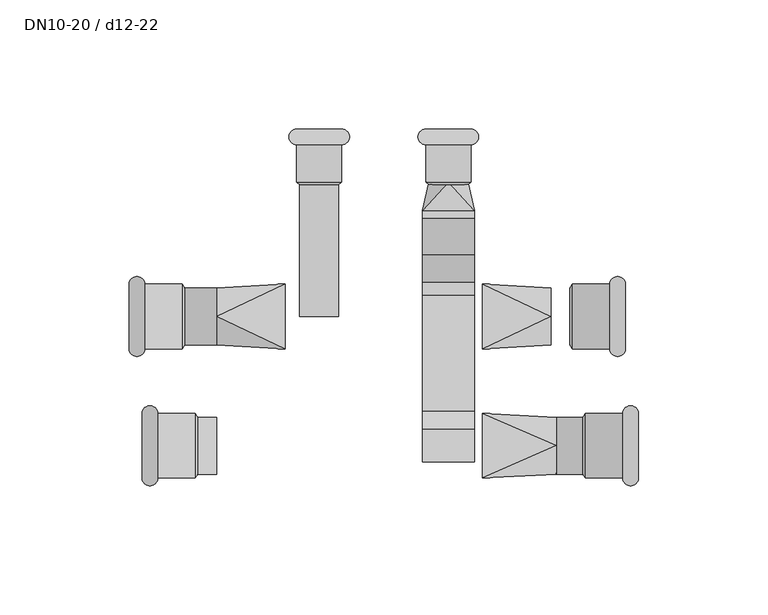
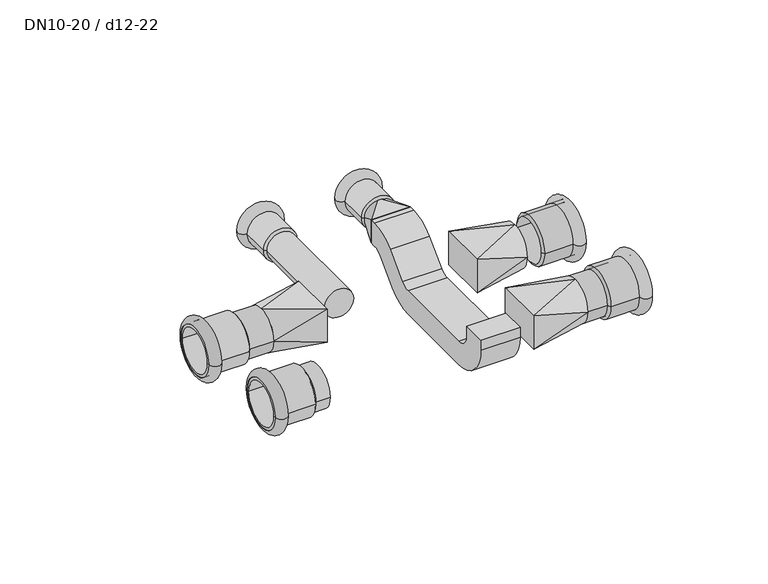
"""IFC4 building model written with IfcOpenShell, lengths in millimetres: pipe fitting geometry, NLRS_50_PIF_UN_Mapress kruising-T-stuk met isolatiebox_geb : DN10-20 / d12-22."""

from ifc_helpers import new_model, si_unit, point, frame, frame_2d, origin, origin_2d, place, context, project, spatial, polyline, circle_curve, ellipse_curve, trimmed, segment, composite_curve, outline, extrude, source, transform, mapped, element, save
from ifc_brep_helpers import plane_surface, cylinder_surface, revolved_surface, spline_surface, advanced_brep


def dn10_20_d12_22_c27e3a43(model_context):
    return source(origin(), model_context, "Body", "SolidModel", [
        advanced_brep(
        [(-41.3, 72.5, 0.0), (-58.7, 72.5, 0.0), (-58.7, 66.4987073, 0.0), (-41.3, 66.4987073, 0.0)],
        [
            (0, 1, circle_curve(frame((-50.0, 72.5, 0.0), z_axis=(0.0, 1.0, 0.0), x_axis=(-1.0000000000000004, 0.0, 0.0)), 8.7)),
            (1, 2),
            (2, 3, circle_curve(frame((-50.0, 66.4987073, 0.0), z_axis=(0.0, -1.0, 0.0), x_axis=(-1.0000000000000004, 0.0, 0.0)), 8.7)),
            (3, 0),
            (1, 0, circle_curve(frame((-50.0, 72.5, 0.0), z_axis=(0.0, 1.0, 0.0), x_axis=(-1.0000000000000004, 0.0, 0.0)), 8.7)),
            (3, 2, circle_curve(frame((-50.0, 66.4987073, 0.0), z_axis=(0.0, -1.0, 0.0), x_axis=(-1.0000000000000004, 0.0, 0.0)), 8.7)),
            (2, 1, circle_curve(frame((-58.7, 69.4993536, 0.0), z_axis=(0.0, 0.0, -1.0000000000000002), x_axis=(0.0, 1.0000000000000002, 0.0)), 3.0006464)),
            (0, 3, circle_curve(frame((-41.3, 69.4993536, 0.0), z_axis=(0.0, 0.0, -1.0000000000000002), x_axis=(0.0, 1.0000000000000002, 0.0)), 3.0006464)),
        ],
        [
            revolved_surface(polyline([(-58.7, 66.4987073, 0.0), (-58.7, 72.5, 0.0)]), (-50.0, 52.0, 0.0), (0.0, -1.0000000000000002, 0.0)),
            revolved_surface(trimmed(ellipse_curve(frame((-58.7, 69.4993536, 0.0), z_axis=(0.0, 0.0, 1.0000000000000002), x_axis=(0.0, 1.0000000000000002, 0.0)), 3.0006464, 3.0006464), [point((-58.7, 72.5, 0.0))], [point((-58.7, 66.4987073, 0.0))], True, "CARTESIAN"), (-50.0, 52.0, 0.0), (0.0, -1.0000000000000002, 0.0)),
        ],
        [
            (0, [[1, 2, 3, 4]]),
            (0, [[5, -4, 6, -2]]),
            (1, [[-3, 7, -1, 8]]),
            (1, [[-6, -8, -5, -7]]),
        ],
    ),
        advanced_brep(
        [(-42.5, 72.5, 0.0), (-57.5, 72.5, 0.0), (-57.5, 51.0, 0.0), (-42.5, 51.0, 0.0), (-41.3, 72.5, 0.0), (-58.7, 72.5, 0.0), (-41.3, 52.0, 0.0), (-58.7, 52.0, 0.0)],
        [
            (0, 1, circle_curve(frame((-50.0, 72.5, 0.0), z_axis=(0.0, 1.0, 0.0), x_axis=(-1.0000000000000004, 0.0, 0.0)), 7.5)),
            (1, 2),
            (2, 3, circle_curve(frame((-50.0, 51.0, 0.0), z_axis=(0.0, -1.0, 0.0), x_axis=(-1.0000000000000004, 0.0, 0.0)), 7.5)),
            (3, 0),
            (1, 0, circle_curve(frame((-50.0, 72.5, 0.0), z_axis=(0.0, 1.0, 0.0), x_axis=(-1.0000000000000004, 0.0, 0.0)), 7.5)),
            (3, 2, circle_curve(frame((-50.0, 51.0, 0.0), z_axis=(0.0, -1.0, 0.0), x_axis=(-1.0000000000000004, 0.0, 0.0)), 7.5)),
            (4, 5, circle_curve(frame((-50.0, 72.5, 0.0), z_axis=(0.0, 1.0, 0.0), x_axis=(-1.0000000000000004, 0.0, 0.0)), 8.7)),
            (5, 1),
            (0, 4),
            (5, 4, circle_curve(frame((-50.0, 72.5, 0.0), z_axis=(0.0, 1.0, 0.0), x_axis=(-1.0000000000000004, 0.0, 0.0)), 8.7)),
            (6, 7, circle_curve(frame((-50.0, 52.0, 0.0), z_axis=(0.0, 1.0, 0.0), x_axis=(-1.0000000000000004, 0.0, 0.0)), 8.7)),
            (7, 5),
            (4, 6),
            (7, 6, circle_curve(frame((-50.0, 52.0, 0.0), z_axis=(0.0, 1.0, 0.0), x_axis=(-1.0000000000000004, 0.0, 0.0)), 8.7)),
            (2, 7),
            (6, 3),
        ],
        [
            revolved_surface(polyline([(-57.5, 51.0, 0.0), (-57.5, 72.5, 0.0)]), (-50.0, 52.0, 0.0), (0.0, -1.0000000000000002, 0.0)),
            plane_surface(frame((-50.0, 72.5, 0.0), z_axis=(0.0, 1.0, 0.0), x_axis=(-1.0, 0.0, 0.0))),
            cylinder_surface(frame((-50.0, 52.0, 0.0), z_axis=(0.0, -1.0000000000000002, 0.0), x_axis=(-1.0000000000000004, 0.0, 0.0)), 8.7),
            revolved_surface(polyline([(-58.7, 52.0, 0.0), (-57.5, 51.0, 0.0)]), (-50.0, 52.0, 0.0), (0.0, -1.0000000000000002, 0.0)),
        ],
        [
            (0, [[1, 2, 3, 4]]),
            (0, [[5, -4, 6, -2]]),
            (1, [[7, 8, -1, 9]]),
            (1, [[10, -9, -5, -8]]),
            (2, [[11, 12, -7, 13]]),
            (2, [[14, -13, -10, -12]]),
            (3, [[-3, 15, -11, 16]]),
            (3, [[-6, -16, -14, -15]]),
        ],
    ),
        advanced_brep(
        [(8.7, 72.5, 0.0), (-8.7, 72.5, 0.0), (-8.7, 66.4987073, 0.0), (8.7, 66.4987073, 0.0)],
        [
            (0, 1, circle_curve(frame((0.0, 72.5, 0.0), z_axis=(0.0, 1.0, 0.0), x_axis=(-1.0000000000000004, 0.0, 0.0)), 8.7)),
            (1, 2),
            (2, 3, circle_curve(frame((0.0, 66.4987073, 0.0), z_axis=(0.0, -1.0, 0.0), x_axis=(-1.0000000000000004, 0.0, 0.0)), 8.7)),
            (3, 0),
            (1, 0, circle_curve(frame((0.0, 72.5, 0.0), z_axis=(0.0, 1.0, 0.0), x_axis=(-1.0000000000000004, 0.0, 0.0)), 8.7)),
            (3, 2, circle_curve(frame((0.0, 66.4987073, 0.0), z_axis=(0.0, -1.0, 0.0), x_axis=(-1.0000000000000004, 0.0, 0.0)), 8.7)),
            (2, 1, circle_curve(frame((-8.7, 69.4993536, 0.0), z_axis=(0.0, 0.0, -1.0000000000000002), x_axis=(0.0, 1.0000000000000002, 0.0)), 3.0006464)),
            (0, 3, circle_curve(frame((8.7, 69.4993536, 0.0), z_axis=(0.0, 0.0, -1.0000000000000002), x_axis=(0.0, 1.0000000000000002, 0.0)), 3.0006464)),
        ],
        [
            revolved_surface(polyline([(-8.700000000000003, 66.4987073, 0.0), (-8.700000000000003, 72.5, 0.0)]), (0.0, 52.0, 0.0), (0.0, -1.0000000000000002, 0.0)),
            revolved_surface(trimmed(ellipse_curve(frame((-8.7, 69.4993536, 0.0), z_axis=(0.0, 0.0, 1.0000000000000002), x_axis=(0.0, 1.0000000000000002, 0.0)), 3.0006464, 3.0006464), [point((-8.7, 72.5, 0.0))], [point((-8.7, 66.4987073, 0.0))], True, "CARTESIAN"), (0.0, 52.0, 0.0), (0.0, -1.0000000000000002, 0.0)),
        ],
        [
            (0, [[1, 2, 3, 4]]),
            (0, [[5, -4, 6, -2]]),
            (1, [[-3, 7, -1, 8]]),
            (1, [[-6, -8, -5, -7]]),
        ],
    ),
        advanced_brep(
        [(7.5, 72.5, 0.0), (-7.5, 72.5, 0.0), (-7.5, 51.0, 0.0), (7.5, 51.0, 0.0), (8.7, 72.5, 0.0), (-8.7, 72.5, 0.0), (8.7, 52.0, 0.0), (-8.7, 52.0, 0.0)],
        [
            (0, 1, circle_curve(frame((0.0, 72.5, 0.0), z_axis=(0.0, 1.0, 0.0), x_axis=(-1.0000000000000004, 0.0, 0.0)), 7.5)),
            (1, 2),
            (2, 3, circle_curve(frame((0.0, 51.0, 0.0), z_axis=(0.0, -1.0, 0.0), x_axis=(-1.0000000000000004, 0.0, 0.0)), 7.5)),
            (3, 0),
            (1, 0, circle_curve(frame((0.0, 72.5, 0.0), z_axis=(0.0, 1.0, 0.0), x_axis=(-1.0000000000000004, 0.0, 0.0)), 7.5)),
            (3, 2, circle_curve(frame((0.0, 51.0, 0.0), z_axis=(0.0, -1.0, 0.0), x_axis=(-1.0000000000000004, 0.0, 0.0)), 7.5)),
            (4, 5, circle_curve(frame((0.0, 72.5, 0.0), z_axis=(0.0, 1.0, 0.0), x_axis=(-1.0000000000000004, 0.0, 0.0)), 8.7)),
            (5, 1),
            (0, 4),
            (5, 4, circle_curve(frame((0.0, 72.5, 0.0), z_axis=(0.0, 1.0, 0.0), x_axis=(-1.0000000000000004, 0.0, 0.0)), 8.7)),
            (6, 7, circle_curve(frame((0.0, 52.0, 0.0), z_axis=(0.0, 1.0, 0.0), x_axis=(-1.0000000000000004, 0.0, 0.0)), 8.7)),
            (7, 5),
            (4, 6),
            (7, 6, circle_curve(frame((0.0, 52.0, 0.0), z_axis=(0.0, 1.0, 0.0), x_axis=(-1.0000000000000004, 0.0, 0.0)), 8.7)),
            (2, 7),
            (6, 3),
        ],
        [
            revolved_surface(polyline([(-7.5000000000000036, 51.0, 0.0), (-7.5000000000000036, 72.5, 0.0)]), (0.0, 52.0, 0.0), (0.0, -1.0000000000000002, 0.0)),
            plane_surface(frame((0.0, 72.5, 0.0), z_axis=(0.0, 1.0, 0.0), x_axis=(-1.0, 0.0, 0.0))),
            cylinder_surface(frame((0.0, 52.0, 0.0), z_axis=(0.0, -1.0000000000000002, 0.0), x_axis=(-1.0000000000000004, 0.0, 0.0)), 8.7),
            revolved_surface(polyline([(-8.7, 52.0, 0.0), (-7.5, 51.0, 0.0)]), (0.0, 52.0, 0.0), (0.0, -1.0000000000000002, 0.0)),
        ],
        [
            (0, [[1, 2, 3, 4]]),
            (0, [[5, -4, 6, -2]]),
            (1, [[7, 8, -1, 9]]),
            (1, [[10, -9, -5, -8]]),
            (2, [[11, 12, -7, 13]]),
            (2, [[14, -13, -10, -12]]),
            (3, [[-3, 15, -11, 16]]),
            (3, [[-6, -16, -14, -15]]),
        ],
    ),
        advanced_brep(
        [(68.5, -12.5, 0.0), (68.5, 12.5, 0.0), (62.4987073, 12.5, 0.0), (62.4987073, -12.5, 0.0)],
        [
            (0, 1, circle_curve(frame((68.5, 0.0, 0.0), z_axis=(1.0, 0.0, 0.0), x_axis=(0.0, 1.0, 0.0)), 12.5)),
            (1, 2),
            (2, 3, circle_curve(frame((62.4987073, 0.0, 0.0), z_axis=(-1.0, 0.0, 0.0), x_axis=(0.0, 1.0, 0.0)), 12.5)),
            (3, 0),
            (1, 0, circle_curve(frame((68.5, 0.0, 0.0), z_axis=(1.0, 0.0, 0.0), x_axis=(0.0, 1.0, 0.0)), 12.5)),
            (3, 2, circle_curve(frame((62.4987073, 0.0, 0.0), z_axis=(-1.0, 0.0, 0.0), x_axis=(0.0, 1.0, 0.0)), 12.5)),
            (2, 1, circle_curve(frame((65.4993536, 12.5, 0.0), z_axis=(0.0, 0.0, -1.0), x_axis=(1.0, 0.0, 0.0)), 3.0006464)),
            (0, 3, circle_curve(frame((65.4993536, -12.5, 0.0), z_axis=(0.0, 0.0, -1.0), x_axis=(1.0, 0.0, 0.0)), 3.0006464)),
        ],
        [
            revolved_surface(polyline([(62.4987073, 12.5, 0.0), (68.5, 12.5, 0.0)]), (48.0, 0.0, 0.0), (-1.0, 0.0, 0.0)),
            revolved_surface(trimmed(ellipse_curve(frame((65.4993536, 12.5, 0.0), z_axis=(0.0, 0.0, 1.0), x_axis=(1.0, 0.0, 0.0)), 3.0006464, 3.0006464), [point((68.5, 12.5, 0.0))], [point((62.4987073, 12.5, 0.0))], True, "CARTESIAN"), (48.0, 0.0, 0.0), (-1.0, 0.0, 0.0)),
        ],
        [
            (0, [[1, 2, 3, 4]]),
            (0, [[5, -4, 6, -2]]),
            (1, [[-3, 7, -1, 8]]),
            (1, [[-6, -8, -5, -7]]),
        ],
    ),
        advanced_brep(
        [(68.5, -11.0, 0.0), (68.5, 11.0, 0.0), (47.0, 11.0, 0.0), (47.0, -11.0, 0.0), (68.5, -12.5, 0.0), (68.5, 12.5, 0.0), (48.0, -12.5, 0.0), (48.0, 12.5, 0.0)],
        [
            (0, 1, circle_curve(frame((68.5, 0.0, 0.0), z_axis=(1.0, 0.0, 0.0), x_axis=(0.0, 1.0, 0.0)), 11.0)),
            (1, 2),
            (2, 3, circle_curve(frame((47.0, 0.0, 0.0), z_axis=(-1.0, 0.0, 0.0), x_axis=(0.0, 1.0, 0.0)), 11.0)),
            (3, 0),
            (1, 0, circle_curve(frame((68.5, 0.0, 0.0), z_axis=(1.0, 0.0, 0.0), x_axis=(0.0, 1.0, 0.0)), 11.0)),
            (3, 2, circle_curve(frame((47.0, 0.0, 0.0), z_axis=(-1.0, 0.0, 0.0), x_axis=(0.0, 1.0, 0.0)), 11.0)),
            (4, 5, circle_curve(frame((68.5, 0.0, 0.0), z_axis=(1.0, 0.0, 0.0), x_axis=(0.0, 1.0, 0.0)), 12.5)),
            (5, 1),
            (0, 4),
            (5, 4, circle_curve(frame((68.5, 0.0, 0.0), z_axis=(1.0, 0.0, 0.0), x_axis=(0.0, 1.0, 0.0)), 12.5)),
            (6, 7, circle_curve(frame((48.0, 0.0, 0.0), z_axis=(1.0, 0.0, 0.0), x_axis=(0.0, 1.0, 0.0)), 12.5)),
            (7, 5),
            (4, 6),
            (7, 6, circle_curve(frame((48.0, 0.0, 0.0), z_axis=(1.0, 0.0, 0.0), x_axis=(0.0, 1.0, 0.0)), 12.5)),
            (2, 7),
            (6, 3),
        ],
        [
            revolved_surface(polyline([(47.0, 11.0, 0.0), (68.5, 11.0, 0.0)]), (48.0, 0.0, 0.0), (-1.0, 0.0, 0.0)),
            plane_surface(frame((68.5, 0.0, 0.0), z_axis=(1.0, 0.0, 0.0), x_axis=(0.0, 1.0, 0.0))),
            cylinder_surface(frame((48.0, 0.0, 0.0), z_axis=(-1.0, 0.0, 0.0), x_axis=(0.0, 1.0, 0.0)), 12.5),
            revolved_surface(polyline([(48.0, 12.5, 0.0), (47.0, 11.0, 0.0)]), (48.0, 0.0, 0.0), (-1.0, 0.0, 0.0)),
        ],
        [
            (0, [[1, 2, 3, 4]]),
            (0, [[5, -4, 6, -2]]),
            (1, [[7, 8, -1, 9]]),
            (1, [[10, -9, -5, -8]]),
            (2, [[11, 12, -7, 13]]),
            (2, [[14, -13, -10, -12]]),
            (3, [[-3, 15, -11, 16]]),
            (3, [[-6, -16, -14, -15]]),
        ],
    ),
        advanced_brep(
        [(73.5, -62.5, 0.0), (73.5, -37.5, 0.0), (67.4987073, -37.5, 0.0), (67.4987073, -62.5, 0.0)],
        [
            (0, 1, circle_curve(frame((73.5, -50.0, 0.0), z_axis=(1.0, 0.0, 0.0), x_axis=(0.0, 1.0, 0.0)), 12.5)),
            (1, 2),
            (2, 3, circle_curve(frame((67.4987073, -50.0, 0.0), z_axis=(-1.0, 0.0, 0.0), x_axis=(0.0, 1.0, 0.0)), 12.5)),
            (3, 0),
            (1, 0, circle_curve(frame((73.5, -50.0, 0.0), z_axis=(1.0, 0.0, 0.0), x_axis=(0.0, 1.0, 0.0)), 12.5)),
            (3, 2, circle_curve(frame((67.4987073, -50.0, 0.0), z_axis=(-1.0, 0.0, 0.0), x_axis=(0.0, 1.0, 0.0)), 12.5)),
            (2, 1, circle_curve(frame((70.4993536, -37.5, 0.0), z_axis=(0.0, 0.0, -1.0), x_axis=(1.0, 0.0, 0.0)), 3.0006464)),
            (0, 3, circle_curve(frame((70.4993536, -62.5, 0.0), z_axis=(0.0, 0.0, -1.0), x_axis=(1.0, 0.0, 0.0)), 3.0006464)),
        ],
        [
            revolved_surface(polyline([(67.4987073, -37.5, 0.0), (73.5, -37.5, 0.0)]), (53.0, -50.0, 0.0), (-1.0, 0.0, 0.0)),
            revolved_surface(trimmed(ellipse_curve(frame((70.4993536, -37.5, 0.0), z_axis=(0.0, 0.0, 1.0), x_axis=(1.0, 0.0, 0.0)), 3.0006464, 3.0006464), [point((73.5, -37.5, 0.0))], [point((67.4987073, -37.5, 0.0))], True, "CARTESIAN"), (53.0, -50.0, 0.0), (-1.0, 0.0, 0.0)),
        ],
        [
            (0, [[1, 2, 3, 4]]),
            (0, [[5, -4, 6, -2]]),
            (1, [[-3, 7, -1, 8]]),
            (1, [[-6, -8, -5, -7]]),
        ],
    ),
        advanced_brep(
        [(73.5, -61.0, 0.0), (73.5, -39.0, 0.0), (52.0, -39.0, 0.0), (52.0, -61.0, 0.0), (73.5, -62.5, 0.0), (73.5, -37.5, 0.0), (53.0, -62.5, 0.0), (53.0, -37.5, 0.0)],
        [
            (0, 1, circle_curve(frame((73.5, -50.0, 0.0), z_axis=(1.0, 0.0, 0.0), x_axis=(0.0, 1.0, 0.0)), 11.0)),
            (1, 2),
            (2, 3, circle_curve(frame((52.0, -50.0, 0.0), z_axis=(-1.0, 0.0, 0.0), x_axis=(0.0, 1.0, 0.0)), 11.0)),
            (3, 0),
            (1, 0, circle_curve(frame((73.5, -50.0, 0.0), z_axis=(1.0, 0.0, 0.0), x_axis=(0.0, 1.0, 0.0)), 11.0)),
            (3, 2, circle_curve(frame((52.0, -50.0, 0.0), z_axis=(-1.0, 0.0, 0.0), x_axis=(0.0, 1.0, 0.0)), 11.0)),
            (4, 5, circle_curve(frame((73.5, -50.0, 0.0), z_axis=(1.0, 0.0, 0.0), x_axis=(0.0, 1.0, 0.0)), 12.5)),
            (5, 1),
            (0, 4),
            (5, 4, circle_curve(frame((73.5, -50.0, 0.0), z_axis=(1.0, 0.0, 0.0), x_axis=(0.0, 1.0, 0.0)), 12.5)),
            (6, 7, circle_curve(frame((53.0, -50.0, 0.0), z_axis=(1.0, 0.0, 0.0), x_axis=(0.0, 1.0, 0.0)), 12.5)),
            (7, 5),
            (4, 6),
            (7, 6, circle_curve(frame((53.0, -50.0, 0.0), z_axis=(1.0, 0.0, 0.0), x_axis=(0.0, 1.0, 0.0)), 12.5)),
            (2, 7),
            (6, 3),
        ],
        [
            revolved_surface(polyline([(52.0, -39.0, 0.0), (73.5, -39.0, 0.0)]), (53.0, -50.0, 0.0), (-1.0, 0.0, 0.0)),
            plane_surface(frame((73.5, -50.0, 0.0), z_axis=(1.0, 0.0, 0.0), x_axis=(0.0, 1.0, 0.0))),
            cylinder_surface(frame((53.0, -50.0, 0.0), z_axis=(-1.0, 0.0, 0.0), x_axis=(0.0, 1.0, 0.0)), 12.5),
            revolved_surface(polyline([(53.0, -37.5, 0.0), (52.0, -39.0, 0.0)]), (53.0, -50.0, 0.0), (-1.0, 0.0, 0.0)),
        ],
        [
            (0, [[1, 2, 3, 4]]),
            (0, [[5, -4, 6, -2]]),
            (1, [[7, 8, -1, 9]]),
            (1, [[10, -9, -5, -8]]),
            (2, [[11, 12, -7, 13]]),
            (2, [[14, -13, -10, -12]]),
            (3, [[-3, 15, -11, 16]]),
            (3, [[-6, -16, -14, -15]]),
        ],
    ),
        advanced_brep(
        [(-123.5, 12.5, 0.0), (-123.5, -12.5, 0.0), (-117.4987073, -12.5, 0.0), (-117.4987073, 12.5, 0.0)],
        [
            (0, 1, circle_curve(frame((-123.5, 0.0, 0.0), z_axis=(-1.0, 0.0, 0.0), x_axis=(0.0, -1.0000000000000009, 0.0)), 12.5)),
            (1, 2),
            (2, 3, circle_curve(frame((-117.4987073, 0.0, 0.0), z_axis=(1.0, 0.0, 0.0), x_axis=(0.0, -1.0000000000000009, 0.0)), 12.5)),
            (3, 0),
            (1, 0, circle_curve(frame((-123.5, 0.0, 0.0), z_axis=(-1.0, 0.0, 0.0), x_axis=(0.0, -1.0000000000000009, 0.0)), 12.5)),
            (3, 2, circle_curve(frame((-117.4987073, 0.0, 0.0), z_axis=(1.0, 0.0, 0.0), x_axis=(0.0, -1.0000000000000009, 0.0)), 12.5)),
            (2, 1, circle_curve(frame((-120.4993536, -12.5, 0.0), z_axis=(0.0, 0.0, -1.0000000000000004), x_axis=(-1.0000000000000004, 0.0, 0.0)), 3.0006464)),
            (0, 3, circle_curve(frame((-120.4993536, 12.5, 0.0), z_axis=(0.0, 0.0, -1.0000000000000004), x_axis=(-1.0000000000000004, 0.0, 0.0)), 3.0006464)),
        ],
        [
            revolved_surface(polyline([(-117.49870730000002, -12.50000000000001, 0.0), (-123.50000000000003, -12.50000000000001, 0.0)]), (-103.0, 0.0, 0.0), (1.0000000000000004, 0.0, 0.0)),
            revolved_surface(trimmed(ellipse_curve(frame((-120.4993536, -12.5, 0.0), z_axis=(0.0, 0.0, 1.0000000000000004), x_axis=(-1.0000000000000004, 0.0, 0.0)), 3.0006464, 3.0006464), [point((-123.5, -12.5, 0.0))], [point((-117.4987073, -12.5, 0.0))], True, "CARTESIAN"), (-103.0, 0.0, 0.0), (1.0000000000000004, 0.0, 0.0)),
        ],
        [
            (0, [[1, 2, 3, 4]]),
            (0, [[5, -4, 6, -2]]),
            (1, [[-3, 7, -1, 8]]),
            (1, [[-6, -8, -5, -7]]),
        ],
    ),
        advanced_brep(
        [(-123.5, 11.0, 0.0), (-123.5, -11.0, 0.0), (-102.0, -11.0, 0.0), (-102.0, 11.0, 0.0), (-123.5, 12.5, 0.0), (-123.5, -12.5, 0.0), (-103.0, 12.5, 0.0), (-103.0, -12.5, 0.0)],
        [
            (0, 1, circle_curve(frame((-123.5, 0.0, 0.0), z_axis=(-1.0, 0.0, 0.0), x_axis=(0.0, -1.0000000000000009, 0.0)), 11.0)),
            (1, 2),
            (2, 3, circle_curve(frame((-102.0, 0.0, 0.0), z_axis=(1.0, 0.0, 0.0), x_axis=(0.0, -1.0000000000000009, 0.0)), 11.0)),
            (3, 0),
            (1, 0, circle_curve(frame((-123.5, 0.0, 0.0), z_axis=(-1.0, 0.0, 0.0), x_axis=(0.0, -1.0000000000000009, 0.0)), 11.0)),
            (3, 2, circle_curve(frame((-102.0, 0.0, 0.0), z_axis=(1.0, 0.0, 0.0), x_axis=(0.0, -1.0000000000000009, 0.0)), 11.0)),
            (4, 5, circle_curve(frame((-123.5, 0.0, 0.0), z_axis=(-1.0, 0.0, 0.0), x_axis=(0.0, -1.0000000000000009, 0.0)), 12.5)),
            (5, 1),
            (0, 4),
            (5, 4, circle_curve(frame((-123.5, 0.0, 0.0), z_axis=(-1.0, 0.0, 0.0), x_axis=(0.0, -1.0000000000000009, 0.0)), 12.5)),
            (6, 7, circle_curve(frame((-103.0, 0.0, 0.0), z_axis=(-1.0, 0.0, 0.0), x_axis=(0.0, -1.0000000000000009, 0.0)), 12.5)),
            (7, 5),
            (4, 6),
            (7, 6, circle_curve(frame((-103.0, 0.0, 0.0), z_axis=(-1.0, 0.0, 0.0), x_axis=(0.0, -1.0000000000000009, 0.0)), 12.5)),
            (2, 7),
            (6, 3),
        ],
        [
            revolved_surface(polyline([(-102.0, -11.00000000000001, 0.0), (-123.50000000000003, -11.00000000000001, 0.0)]), (-103.0, 0.0, 0.0), (1.0000000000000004, 0.0, 0.0)),
            plane_surface(frame((-123.5, 0.0, 0.0), z_axis=(-1.0, 0.0, 0.0), x_axis=(0.0, -1.0, 0.0))),
            cylinder_surface(frame((-103.0, 0.0, 0.0), z_axis=(1.0000000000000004, 0.0, 0.0), x_axis=(0.0, -1.0000000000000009, 0.0)), 12.5),
            revolved_surface(polyline([(-103.0, -12.5, 0.0), (-102.0, -11.0, 0.0)]), (-103.0, 0.0, 0.0), (1.0000000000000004, 0.0, 0.0)),
        ],
        [
            (0, [[1, 2, 3, 4]]),
            (0, [[5, -4, 6, -2]]),
            (1, [[7, 8, -1, 9]]),
            (1, [[10, -9, -5, -8]]),
            (2, [[11, 12, -7, 13]]),
            (2, [[14, -13, -10, -12]]),
            (3, [[-3, 15, -11, 16]]),
            (3, [[-6, -16, -14, -15]]),
        ],
    ),
        advanced_brep(
        [(-118.5, -37.5, 0.0), (-118.5, -62.5, 0.0), (-112.4987073, -62.5, 0.0), (-112.4987073, -37.5, 0.0)],
        [
            (0, 1, circle_curve(frame((-118.5, -50.0, 0.0), z_axis=(-1.0, 0.0, 0.0), x_axis=(0.0, -1.0000000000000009, 0.0)), 12.5)),
            (1, 2),
            (2, 3, circle_curve(frame((-112.4987073, -50.0, 0.0), z_axis=(1.0, 0.0, 0.0), x_axis=(0.0, -1.0000000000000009, 0.0)), 12.5)),
            (3, 0),
            (1, 0, circle_curve(frame((-118.5, -50.0, 0.0), z_axis=(-1.0, 0.0, 0.0), x_axis=(0.0, -1.0000000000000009, 0.0)), 12.5)),
            (3, 2, circle_curve(frame((-112.4987073, -50.0, 0.0), z_axis=(1.0, 0.0, 0.0), x_axis=(0.0, -1.0000000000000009, 0.0)), 12.5)),
            (2, 1, circle_curve(frame((-115.4993536, -62.5, 0.0), z_axis=(0.0, 0.0, -1.0000000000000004), x_axis=(-1.0000000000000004, 0.0, 0.0)), 3.0006464)),
            (0, 3, circle_curve(frame((-115.4993536, -37.5, 0.0), z_axis=(0.0, 0.0, -1.0000000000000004), x_axis=(-1.0000000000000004, 0.0, 0.0)), 3.0006464)),
        ],
        [
            revolved_surface(polyline([(-112.49870730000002, -62.500000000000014, 0.0), (-118.50000000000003, -62.500000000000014, 0.0)]), (-98.0, -50.0, 0.0), (1.0000000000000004, 0.0, 0.0)),
            revolved_surface(trimmed(ellipse_curve(frame((-115.4993536, -62.5, 0.0), z_axis=(0.0, 0.0, 1.0000000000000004), x_axis=(-1.0000000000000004, 0.0, 0.0)), 3.0006464, 3.0006464), [point((-118.5, -62.5, 0.0))], [point((-112.4987073, -62.5, 0.0))], True, "CARTESIAN"), (-98.0, -50.0, 0.0), (1.0000000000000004, 0.0, 0.0)),
        ],
        [
            (0, [[1, 2, 3, 4]]),
            (0, [[5, -4, 6, -2]]),
            (1, [[-3, 7, -1, 8]]),
            (1, [[-6, -8, -5, -7]]),
        ],
    ),
        advanced_brep(
        [(-118.5, -39.0, 0.0), (-118.5, -61.0, 0.0), (-97.0, -61.0, 0.0), (-97.0, -39.0, 0.0), (-118.5, -37.5, 0.0), (-118.5, -62.5, 0.0), (-98.0, -37.5, 0.0), (-98.0, -62.5, 0.0)],
        [
            (0, 1, circle_curve(frame((-118.5, -50.0, 0.0), z_axis=(-1.0, 0.0, 0.0), x_axis=(0.0, -1.0000000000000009, 0.0)), 11.0)),
            (1, 2),
            (2, 3, circle_curve(frame((-97.0, -50.0, 0.0), z_axis=(1.0, 0.0, 0.0), x_axis=(0.0, -1.0000000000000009, 0.0)), 11.0)),
            (3, 0),
            (1, 0, circle_curve(frame((-118.5, -50.0, 0.0), z_axis=(-1.0, 0.0, 0.0), x_axis=(0.0, -1.0000000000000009, 0.0)), 11.0)),
            (3, 2, circle_curve(frame((-97.0, -50.0, 0.0), z_axis=(1.0, 0.0, 0.0), x_axis=(0.0, -1.0000000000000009, 0.0)), 11.0)),
            (4, 5, circle_curve(frame((-118.5, -50.0, 0.0), z_axis=(-1.0, 0.0, 0.0), x_axis=(0.0, -1.0000000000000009, 0.0)), 12.5)),
            (5, 1),
            (0, 4),
            (5, 4, circle_curve(frame((-118.5, -50.0, 0.0), z_axis=(-1.0, 0.0, 0.0), x_axis=(0.0, -1.0000000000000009, 0.0)), 12.5)),
            (6, 7, circle_curve(frame((-98.0, -50.0, 0.0), z_axis=(-1.0, 0.0, 0.0), x_axis=(0.0, -1.0000000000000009, 0.0)), 12.5)),
            (7, 5),
            (4, 6),
            (7, 6, circle_curve(frame((-98.0, -50.0, 0.0), z_axis=(-1.0, 0.0, 0.0), x_axis=(0.0, -1.0000000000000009, 0.0)), 12.5)),
            (2, 7),
            (6, 3),
        ],
        [
            revolved_surface(polyline([(-97.0, -61.000000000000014, 0.0), (-118.50000000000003, -61.000000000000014, 0.0)]), (-98.0, -50.0, 0.0), (1.0000000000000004, 0.0, 0.0)),
            plane_surface(frame((-118.5, -50.0, 0.0), z_axis=(-1.0, 0.0, 0.0), x_axis=(0.0, -1.0, 0.0))),
            cylinder_surface(frame((-98.0, -50.0, 0.0), z_axis=(1.0000000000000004, 0.0, 0.0), x_axis=(0.0, -1.0000000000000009, 0.0)), 12.5),
            revolved_surface(polyline([(-98.0, -62.5, 0.0), (-97.0, -61.0, 0.0)]), (-98.0, -50.0, 0.0), (1.0000000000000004, 0.0, 0.0)),
        ],
        [
            (0, [[1, 2, 3, 4]]),
            (0, [[5, -4, 6, -2]]),
            (1, [[7, 8, -1, 9]]),
            (1, [[10, -9, -5, -8]]),
            (2, [[11, 12, -7, 13]]),
            (2, [[14, -13, -10, -12]]),
            (3, [[-3, 15, -11, 16]]),
            (3, [[-6, -16, -14, -15]]),
        ],
    ),
        advanced_brep(
        [(0.0774614, 52.0, 7.4996), (7.4991117, 52.0, -0.1154307), (0.0774614, 52.0, -7.4996), (-7.4999119, 52.0, 0.0363502), (10.0, 40.9059542, 6.25), (-10.0, 40.9059542, 6.25), (-10.0, 40.9059542, -6.25), (10.0, 40.9059542, -6.25)],
        [
            (0, 1, circle_curve(frame((0.0, 52.0, 0.0), z_axis=(0.0, 1.0, 0.0), x_axis=(1.0, 0.0, 0.0)), 7.5)),
            (1, 2, circle_curve(frame((0.0, 52.0, 0.0), z_axis=(0.0, 1.0, 0.0), x_axis=(1.0, 0.0, 0.0)), 7.5)),
            (2, 3, circle_curve(frame((0.0, 52.0, 0.0), z_axis=(0.0, 1.0, 0.0), x_axis=(1.0, 0.0, 0.0)), 7.5)),
            (3, 0, circle_curve(frame((0.0, 52.0, 0.0), z_axis=(0.0, 1.0, 0.0), x_axis=(1.0, 0.0, 0.0)), 7.5)),
            (4, 5),
            (5, 6),
            (6, 7),
            (7, 4),
            (5, 3),
            (3, 6),
            (7, 1),
            (1, 4),
            (0, 4),
            (7, 2),
            (6, 2),
            (5, 0),
        ],
        [
            plane_surface(frame((0.0385306, 52.0, -0.0197701), z_axis=(0.0, 1.0, 0.0), x_axis=(-0.0048466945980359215, 0.0, -0.9999882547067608))),
            plane_surface(frame((0.0, 40.9059542, 0.0), z_axis=(0.0, -1.0, 0.0), x_axis=(-0.0048466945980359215, 0.0, -0.9999882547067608))),
            plane_surface(frame((-10.0, 40.9059542, 0.0), z_axis=(-0.975535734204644, 0.21984092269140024, 0.0), x_axis=(0.0, 0.0, 1.0))),
            plane_surface(frame((10.0, 40.9059542, 0.0), z_axis=(0.9755206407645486, 0.219907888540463, 0.0), x_axis=(0.0, 0.0, -1.0))),
            spline_surface(2, 1, [[(10.0, 40.9059542, 6.25), (0.0774614, 52.0, 7.4996)], [(10.0, 40.9059542, 6.25), (3.195024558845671, 52.0, 7.467399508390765)], [(10.0, 40.9059542, 6.25), (5.371060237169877, 52.0, 5.234664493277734)], [(10.0, 40.9059542, 6.25), (7.5470959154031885, 52.0, 3.0019294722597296)], [(10.0, 40.9059542, 6.25), (7.4991117, 52.0, -0.1154307)]], [3, 2, 3], [2, 2], [0.0, 1.0, 2.0], [0.0, 1.0], weights=[[1.0, 1.0], [0.9233944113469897, 0.9233944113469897], [1.0, 1.0], [0.9233944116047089, 0.9233944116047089], [1.0, 1.0]]),
            spline_surface(2, 1, [[(10.0, 40.9059542, -6.25), (7.4991117, 52.0, -0.1154307)], [(10.0, 40.9059542, -6.25), (7.386612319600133, 52.0, -7.424105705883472)], [(10.0, 40.9059542, -6.25), (0.0774614, 52.0, -7.4996)]], [3, 3], [2, 2], [0.0, 1.0], [0.0, 1.0], weights=[[1.0, 1.0], [0.7161413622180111, 0.7161413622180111], [1.0, 1.0]]),
            plane_surface(frame((0.0, 40.9059542, -6.25), z_axis=(0.0, -0.11192920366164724, -0.9937161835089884), x_axis=(-1.0, 0.0, 0.0))),
            spline_surface(2, 1, [[(-10.0, 40.9059542, -6.25), (0.0774614, 52.0, -7.4996)], [(-10.0, 40.9059542, -6.25), (-3.0623605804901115, 52.0, -7.5320303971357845)], [(-10.0, 40.9059542, -6.25), (-5.288745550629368, 52.0, -5.317816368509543)], [(-10.0, 40.9059542, -6.25), (-7.515130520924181, 52.0, -3.103602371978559)], [(-10.0, 40.9059542, -6.25), (-7.4999119, 52.0, 0.0363502)]], [3, 2, 3], [2, 2], [0.0, 1.0, 2.0], [0.0, 1.0], weights=[[1.0, 1.0], [0.9224210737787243, 0.9224210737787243], [1.0, 1.0], [0.9224210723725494, 0.9224210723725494], [1.0, 1.0]]),
            spline_surface(2, 1, [[(-10.0, 40.9059542, 6.25), (-7.4999119, 52.0, 0.0363502)], [(-10.0, 40.9059542, 6.25), (-7.484796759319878, 52.0, 3.1549636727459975)], [(-10.0, 40.9059542, 6.25), (-5.262909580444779, 52.0, 5.343386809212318)], [(-10.0, 40.9059542, 6.25), (-3.0410223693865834, 52.0, 7.531809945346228)], [(-10.0, 40.9059542, 6.25), (0.0774614, 52.0, 7.4996)]], [3, 2, 3], [2, 2], [0.0, 1.0, 2.0], [0.0, 1.0], weights=[[1.0, 1.0], [0.923354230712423, 0.923354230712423], [1.0, 1.0], [0.9233542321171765, 0.9233542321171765], [1.0, 1.0]]),
            plane_surface(frame((0.0, 40.9059542, 6.25), z_axis=(0.0, -0.11192920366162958, 0.9937161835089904), x_axis=(1.0, 0.0, 0.0))),
        ],
        [
            (0, [[1, 2, 3, 4]]),
            (1, [[5, 6, 7, 8]]),
            (2, [[-6, 9, 10]]),
            (3, [[-8, 11, 12]]),
            (4, [[-1, 13, -12]]),
            (5, [[-2, -11, 14]]),
            (6, [[-7, 15, -14]]),
            (7, [[-3, -15, -10]]),
            (8, [[-4, -9, 16]]),
            (9, [[-5, -13, -16]]),
        ],
    ),
        advanced_brep(
        [(41.75, -49.9572258, 10.9999168), (41.75, -60.9999958, 0.0096644), (41.75, -50.030288, -10.9999583), (41.75, -39.0000002, 0.0020186), (13.25, -62.5, 9.0), (13.25, -37.5, 9.0), (13.25, -37.5, -9.0), (13.25, -62.5, -9.0)],
        [
            (0, 1, circle_curve(frame((41.75, -50.0, 0.0), z_axis=(1.0, 0.0, 0.0), x_axis=(0.0, 1.0, 0.0)), 11.0)),
            (1, 2, circle_curve(frame((41.75, -50.0, 0.0), z_axis=(1.0, 0.0, 0.0), x_axis=(0.0, 1.0, 0.0)), 11.0)),
            (2, 3, circle_curve(frame((41.75, -50.0, 0.0), z_axis=(1.0, 0.0, 0.0), x_axis=(0.0, 1.0, 0.0)), 11.0)),
            (3, 0, circle_curve(frame((41.75, -50.0, 0.0), z_axis=(1.0, 0.0, 0.0), x_axis=(0.0, 1.0, 0.0)), 11.0)),
            (4, 5),
            (5, 6),
            (6, 7),
            (7, 4),
            (7, 1),
            (1, 4),
            (5, 3),
            (3, 6),
            (0, 4),
            (7, 2),
            (6, 2),
            (5, 0),
        ],
        [
            plane_surface(frame((41.75, -49.9968774, 0.0029104), z_axis=(1.0, 0.0, 0.0), x_axis=(0.0, -0.0008785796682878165, -0.9999996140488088))),
            plane_surface(frame((13.25, -50.0, 0.0), z_axis=(-1.0, 0.0, 0.0), x_axis=(0.0, -0.0008785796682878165, -0.9999996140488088))),
            plane_surface(frame((13.25, -62.5, 0.0), z_axis=(0.05255898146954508, -0.9986178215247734, 0.0), x_axis=(0.0, 0.0, -1.0))),
            plane_surface(frame((13.25, -37.5, 0.0), z_axis=(0.05255883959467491, 0.9986178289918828, 0.0), x_axis=(0.0, 0.0, 1.0))),
            spline_surface(2, 1, [[(13.25, -62.5, 9.0), (41.75, -49.9572258, 10.9999168)], [(13.25, -62.5, 9.0), (41.75, -54.52324111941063, 11.017672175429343)], [(13.25, -62.5, 9.0), (41.75, -57.759612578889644, 7.796692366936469)], [(13.25, -62.5, 9.0), (41.75, -60.9959840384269, 4.575712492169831)], [(13.25, -62.5, 9.0), (41.75, -60.9999958, 0.0096644)]], [3, 2, 3], [2, 2], [0.0, 1.0, 2.0], [0.0, 1.0], weights=[[1.0, 1.0], [0.9235913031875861, 0.9235913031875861], [1.0, 1.0], [0.9235913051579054, 0.9235913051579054], [1.0, 1.0]]),
            spline_surface(2, 1, [[(13.25, -62.5, -9.0), (41.75, -60.9999958, 0.0096644)], [(13.25, -62.5, -9.0), (41.75, -61.00964214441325, -10.969727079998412)], [(13.25, -62.5, -9.0), (41.75, -50.030288, -10.9999583)]], [3, 3], [2, 2], [0.0, 1.0], [0.0, 1.0], weights=[[1.0, 1.0], [0.7077693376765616, 0.7077693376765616], [1.0, 1.0]]),
            plane_surface(frame((13.25, -50.0, -9.0), z_axis=(-0.07000182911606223, 0.0, -0.9975468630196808), x_axis=(0.0, 1.0, 0.0))),
            spline_surface(2, 1, [[(13.25, -37.5, -9.0), (41.75, -50.030288, -10.9999583)], [(13.25, -37.5, -9.0), (41.75, -45.46449084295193, -11.012530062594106)], [(13.25, -37.5, -9.0), (41.75, -42.231826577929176, -7.788162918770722)], [(13.25, -37.5, -9.0), (41.75, -38.99916231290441, -4.563795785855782)], [(13.25, -37.5, -9.0), (41.75, -39.0000002, 0.0020186)]], [3, 2, 3], [2, 2], [0.0, 1.0, 2.0], [0.0, 1.0], weights=[[1.0, 1.0], [0.9235983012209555, 0.9235983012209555], [1.0, 1.0], [0.923598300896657, 0.923598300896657], [1.0, 1.0]]),
            spline_surface(2, 1, [[(13.25, -37.5, 9.0), (41.75, -39.0000002, 0.0020186)], [(13.25, -37.5, 9.0), (41.75, -39.00201057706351, 10.957316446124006)], [(13.25, -37.5, 9.0), (41.75, -49.9572258, 10.9999168)]], [3, 3], [2, 2], [0.0, 1.0], [0.0, 1.0], weights=[[1.0, 1.0], [0.7085450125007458, 0.7085450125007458], [1.0, 1.0]]),
            plane_surface(frame((13.25, -50.0, 9.0), z_axis=(-0.0700003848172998, 0.0, 0.997546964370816), x_axis=(0.0, -1.0, 0.0))),
        ],
        [
            (0, [[1, 2, 3, 4]]),
            (1, [[5, 6, 7, 8]]),
            (2, [[-8, 9, 10]]),
            (3, [[-6, 11, 12]]),
            (4, [[-1, 13, -10]]),
            (5, [[-2, -9, 14]]),
            (6, [[-7, 15, -14]]),
            (7, [[-3, -15, -12]]),
            (8, [[-4, -11, 16]]),
            (9, [[-5, -13, -16]]),
        ],
    ),
        advanced_brep(
        [(39.75, -0.0348869, 10.9999447), (39.75, -10.9999958, 0.0096644), (39.75, 0.0126554, -10.9999927), (39.75, 10.9999397, -0.0364094), (13.25, -12.5, 9.0), (13.25, 12.5, 9.0), (13.25, 12.5, -9.0), (13.25, -12.5, -9.0)],
        [
            (0, 1, circle_curve(frame((39.75, 0.0, 0.0), z_axis=(1.0, 0.0, 0.0), x_axis=(0.0, 1.0, 0.0)), 11.0)),
            (1, 2, circle_curve(frame((39.75, 0.0, 0.0), z_axis=(1.0, 0.0, 0.0), x_axis=(0.0, 1.0, 0.0)), 11.0)),
            (2, 3, circle_curve(frame((39.75, 0.0, 0.0), z_axis=(1.0, 0.0, 0.0), x_axis=(0.0, 1.0, 0.0)), 11.0)),
            (3, 0, circle_curve(frame((39.75, 0.0, 0.0), z_axis=(1.0, 0.0, 0.0), x_axis=(0.0, 1.0, 0.0)), 11.0)),
            (4, 5),
            (5, 6),
            (6, 7),
            (7, 4),
            (7, 1),
            (1, 4),
            (5, 3),
            (3, 6),
            (0, 4),
            (7, 2),
            (6, 2),
            (5, 0),
        ],
        [
            plane_surface(frame((39.75, -0.0055719, -0.0066983), z_axis=(1.0, 0.0, 0.0), x_axis=(0.0, -0.0008785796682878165, -0.9999996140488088))),
            plane_surface(frame((13.25, 0.0, 0.0), z_axis=(-1.0, 0.0, 0.0), x_axis=(0.0, -0.0008785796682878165, -0.9999996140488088))),
            plane_surface(frame((13.25, -12.5, 0.0), z_axis=(0.056513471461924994, -0.9984018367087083, 0.0), x_axis=(0.0, 0.0, -1.0))),
            plane_surface(frame((13.25, 12.5, 0.0), z_axis=(0.05651557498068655, 0.9984017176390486, 0.0), x_axis=(0.0, 0.0, 1.0))),
            spline_surface(2, 1, [[(13.25, -12.5, 9.0), (39.75, -0.0348869, 10.9999447)], [(13.25, -12.5, 9.0), (39.75, -10.990370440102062, 10.965198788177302)], [(13.25, -12.5, 9.0), (39.75, -10.9999958, 0.0096644)]], [3, 3], [2, 2], [0.0, 1.0], [0.0, 1.0], weights=[[1.0, 1.0], [0.7085372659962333, 0.7085372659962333], [1.0, 1.0]]),
            spline_surface(2, 1, [[(13.25, -12.5, -9.0), (39.75, -10.9999958, 0.0096644)], [(13.25, -12.5, -9.0), (39.75, -11.004004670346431, -4.553221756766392)], [(13.25, -12.5, -9.0), (39.75, -7.777117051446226, -7.779232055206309)], [(13.25, -12.5, -9.0), (39.75, -4.550229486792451, -11.005242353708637)], [(13.25, -12.5, -9.0), (39.75, 0.0126554, -10.9999927)]], [3, 2, 3], [2, 2], [0.0, 1.0, 2.0], [0.0, 1.0], weights=[[1.0, 1.0], [0.9236852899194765, 0.9236852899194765], [1.0, 1.0], [0.9236852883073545, 0.9236852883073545], [1.0, 1.0]]),
            plane_surface(frame((13.25, 0.0, -9.0), z_axis=(-0.07525739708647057, 0.0, -0.9971641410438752), x_axis=(0.0, 1.0, 0.0))),
            spline_surface(2, 1, [[(13.25, 12.5, -9.0), (39.75, 0.0126554, -10.9999927)], [(13.25, 12.5, -9.0), (39.75, 10.96369236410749, -10.987393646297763)], [(13.25, 12.5, -9.0), (39.75, 10.9999397, -0.0364094)]], [3, 3], [2, 2], [0.0, 1.0], [0.0, 1.0], weights=[[1.0, 1.0], [0.7086820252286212, 0.7086820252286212], [1.0, 1.0]]),
            spline_surface(2, 1, [[(13.25, 12.5, 9.0), (39.75, 10.9999397, -0.0364094)], [(13.25, 12.5, 9.0), (39.75, 11.015090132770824, 4.540810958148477)], [(13.25, 12.5, 9.0), (39.75, 7.778712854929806, 7.777636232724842)], [(13.25, 12.5, 9.0), (39.75, 4.542335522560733, 11.014461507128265)], [(13.25, 12.5, 9.0), (39.75, -0.0348869, 10.9999447)]], [3, 2, 3], [2, 2], [0.0, 1.0, 2.0], [0.0, 1.0], weights=[[1.0, 1.0], [0.9232582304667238, 0.9232582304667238], [1.0, 1.0], [0.923258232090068, 0.923258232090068], [1.0, 1.0]]),
            plane_surface(frame((13.25, 0.0, 9.0), z_axis=(-0.07525559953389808, 0.0, 0.997164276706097), x_axis=(0.0, -1.0, 0.0))),
        ],
        [
            (0, [[1, 2, 3, 4]]),
            (1, [[5, 6, 7, 8]]),
            (2, [[-8, 9, 10]]),
            (3, [[-6, 11, 12]]),
            (4, [[-1, 13, -10]]),
            (5, [[-2, -9, 14]]),
            (6, [[-7, 15, -14]]),
            (7, [[-3, -15, -12]]),
            (8, [[-4, -11, 16]]),
            (9, [[-5, -13, -16]]),
        ],
    ),
        extrude(outline(composite_curve([segment(trimmed(circle_curve(frame_2d((-50.0, 0.0)), 11.0), [point((-39.0, 0.0))], [point((-61.0, 0.0))], False, "CARTESIAN"), True, "CONTINUOUS"), segment(trimmed(circle_curve(frame_2d((-50.0, 0.0)), 11.0), [point((-61.0, 0.0))], [point((-39.0, 0.0))], False, "CARTESIAN"), True, "CONTINUOUS")], self_intersect=False)), frame((-98.0, 0.0, 0.0), z_axis=(1.0, 0.0, 0.0), x_axis=(0.0, 1.0, 0.0)), (0.0, 0.0, 1.0), 8.25),
        extrude(outline(composite_curve([segment(trimmed(circle_curve(origin_2d(), 11.0), [point((-11.0, 0.0))], [point((11.0, 0.0))], False, "CARTESIAN"), True, "CONTINUOUS"), segment(trimmed(circle_curve(origin_2d(), 11.0), [point((11.0, 0.0))], [point((-11.0, 0.0))], False, "CARTESIAN"), True, "CONTINUOUS")], self_intersect=False)), frame((-103.0, 0.0, 0.0), z_axis=(1.0, 0.0, 0.0), x_axis=(0.0, 1.0, 0.0)), (0.0, 0.0, 1.0), 13.25),
        extrude(outline(composite_curve([segment(trimmed(circle_curve(frame_2d((0.0, -50.0)), 7.5), [point((0.0, -42.5))], [point((0.0, -57.5))], False, "CARTESIAN"), True, "CONTINUOUS"), segment(trimmed(circle_curve(frame_2d((0.0, -50.0)), 7.5), [point((0.0, -57.5))], [point((0.0, -42.5))], False, "CARTESIAN"), True, "CONTINUOUS")], self_intersect=False)), frame((0.0, 0.0, 0.0), z_axis=(0.0, 1.0, 0.0), x_axis=(0.0, 0.0, 1.0)), (0.0, 0.0, 1.0), 52.0),
        advanced_brep(
        [(-89.75, -10.9999993, 0.0037858), (-89.75, -0.058773, 10.999843), (-89.75, 10.999984, -0.0187767), (-89.75, -0.0663444, -10.9997999), (-63.25, -12.5, 9.0), (-63.25, -12.5, -9.0), (-63.25, 12.5, -9.0), (-63.25, 12.5, 9.0)],
        [
            (0, 1, circle_curve(frame((-89.75, 0.0, 0.0), z_axis=(-1.0, 0.0, 0.0), x_axis=(0.0, 1.0, 0.0)), 11.0)),
            (1, 2, circle_curve(frame((-89.75, 0.0, 0.0), z_axis=(-1.0, 0.0, 0.0), x_axis=(0.0, 1.0, 0.0)), 11.0)),
            (2, 3, circle_curve(frame((-89.75, 0.0, 0.0), z_axis=(-1.0, 0.0, 0.0), x_axis=(0.0, 1.0, 0.0)), 11.0)),
            (3, 0, circle_curve(frame((-89.75, 0.0, 0.0), z_axis=(-1.0, 0.0, 0.0), x_axis=(0.0, 1.0, 0.0)), 11.0)),
            (4, 5),
            (5, 6),
            (6, 7),
            (7, 4),
            (4, 0),
            (0, 5),
            (6, 2),
            (2, 7),
            (4, 1),
            (7, 1),
            (6, 3),
            (5, 3),
        ],
        [
            plane_surface(frame((-89.75, -0.0312832, -0.003737), z_axis=(-1.0000000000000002, 0.0, 0.0), x_axis=(0.0, 0.0003441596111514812, 0.9999999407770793))),
            plane_surface(frame((-63.25, 0.0, 0.0), z_axis=(1.0000000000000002, 0.0, 0.0), x_axis=(0.0, 0.0003441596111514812, 0.9999999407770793))),
            plane_surface(frame((-63.25, -12.5, 0.0), z_axis=(-0.05651333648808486, -0.9984018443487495, 0.0), x_axis=(0.0, 0.0, 1.0))),
            plane_surface(frame((-63.25, 12.5, 0.0), z_axis=(-0.05651391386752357, 0.9984018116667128, 0.0), x_axis=(0.0, 0.0, -1.0))),
            spline_surface(2, 1, [[(-63.25, -12.5, 9.0), (-89.75, -10.9999993, 0.0037858)], [(-63.25, -12.5, 9.0), (-89.75, -10.996234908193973, 10.941403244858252)], [(-63.25, -12.5, 9.0), (-89.75, -0.058773, 10.999843)]], [3, 3], [2, 2], [0.0, 1.0], [0.0, 1.0], weights=[[1.0, 1.0], [0.7091146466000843, 0.7091146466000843], [1.0, 1.0]]),
            plane_surface(frame((-63.25, 0.0, 9.0), z_axis=(0.07525179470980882, 0.0, 0.9971645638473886), x_axis=(0.0, 1.0, 0.0))),
            spline_surface(2, 1, [[(-63.25, 12.5, 9.0), (-89.75, -0.058773, 10.999843)], [(-63.25, 12.5, 9.0), (-89.75, 4.520241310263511, 11.024309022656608)], [(-63.25, 12.5, 9.0), (-89.75, 7.76402082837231, 7.792302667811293)], [(-63.25, 12.5, 9.0), (-89.75, 11.007800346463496, 4.5602963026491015)], [(-63.25, 12.5, 9.0), (-89.75, 10.999984, -0.0187767)]], [3, 2, 3], [2, 2], [0.0, 1.0, 2.0], [0.0, 1.0], weights=[[1.0, 1.0], [0.9232036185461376, 0.9232036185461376], [1.0, 1.0], [0.9232036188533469, 0.9232036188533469], [1.0, 1.0]]),
            spline_surface(2, 1, [[(-63.25, 12.5, -9.0), (-89.75, 10.999984, -0.0187767)], [(-63.25, 12.5, -9.0), (-89.75, 10.992182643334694, -4.589057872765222)], [(-63.25, 12.5, -9.0), (-89.75, 7.748021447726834, -7.808211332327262)], [(-63.25, 12.5, -9.0), (-89.75, 4.503860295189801, -11.02736479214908)], [(-63.25, 12.5, -9.0), (-89.75, -0.0663444, -10.9997999)]], [3, 2, 3], [2, 2], [0.0, 1.0, 2.0], [0.0, 1.0], weights=[[1.0, 1.0], [0.9234652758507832, 0.9234652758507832], [1.0, 1.0], [0.9234652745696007, 0.9234652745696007], [1.0, 1.0]]),
            plane_surface(frame((-63.25, 0.0, -9.0), z_axis=(0.0752501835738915, 0.0, -0.9971646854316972), x_axis=(0.0, -1.0, 0.0))),
            spline_surface(2, 1, [[(-63.25, -12.5, -9.0), (-89.75, -0.0663444, -10.9997999)], [(-63.25, -12.5, -9.0), (-89.75, -11.00376365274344, -10.933831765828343)], [(-63.25, -12.5, -9.0), (-89.75, -10.9999993, 0.0037858)]], [3, 3], [2, 2], [0.0, 1.0], [0.0, 1.0], weights=[[1.0, 1.0], [0.7091146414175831, 0.7091146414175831], [1.0, 1.0]]),
        ],
        [
            (0, [[1, 2, 3, 4]]),
            (1, [[5, 6, 7, 8]]),
            (2, [[-5, 9, 10]]),
            (3, [[-7, 11, 12]]),
            (4, [[-1, -9, 13]]),
            (5, [[-8, 14, -13]]),
            (6, [[-2, -14, -12]]),
            (7, [[-3, -11, 15]]),
            (8, [[-6, 16, -15]]),
            (9, [[-4, -16, -10]]),
        ],
    ),
        advanced_brep(
        [(10.0, -43.75, 0.0), (-10.0, -43.75, 0.0), (-10.0, -56.25, 0.0), (10.0, -56.25, 0.0), (10.0, 40.9059542, 6.25), (10.0, 40.9059542, -6.25), (-10.0, 40.9059542, -6.25), (-10.0, 40.9059542, 6.25), (10.0, -43.75, -5.3414893), (-10.0, -43.75, -5.3414893), (-10.0, -36.7, -12.3914893), (-10.0, 8.2150248, -12.3914893), (-10.0, 13.2155181, -10.3352776), (-10.0, 24.0695591, 0.5187775), (-10.0, 37.9059542, 6.25), (-10.0, 37.9059542, -6.25), (-10.0, 32.9083938, -8.3200573), (-10.0, 22.0385652, -19.1898859), (-10.0, 8.2038663, -24.8914793), (-10.0, -36.7, -24.8914893), (-10.0, -56.25, -5.3414893), (10.0, -56.25, -5.3414893), (10.0, -36.7, -24.8914893), (10.0, 8.2150248, -24.8914893), (10.0, 22.0385582, -19.1898788), (10.0, 32.9083938, -8.3200573), (10.0, 37.9059542, -6.25), (10.0, 37.9059542, 6.25), (10.0, 24.0695591, 0.5187775), (10.0, 13.215511, -10.3352705), (10.0, 8.2261834, -12.3914992), (10.0, -36.7, -12.3914893)],
        [
            (0, 1),
            (1, 2),
            (2, 3),
            (3, 0),
            (4, 5),
            (5, 6),
            (6, 7),
            (7, 4),
            (0, 8),
            (8, 9),
            (9, 1),
            (9, 10, circle_curve(frame((-10.0, -36.7, -5.3414893), z_axis=(1.0, 0.0, 0.0), x_axis=(0.0, -1.0, 0.0)), 7.05)),
            (10, 11),
            (11, 12, circle_curve(frame((-10.0, 8.2387716, -5.3407287), z_axis=(1.0, 0.0, 0.0), x_axis=(0.0, -0.0017853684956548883, -0.9999984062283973)), 7.0507818)),
            (12, 13),
            (13, 14, circle_curve(frame((-10.0, 37.9059542, -13.3176176), z_axis=(-1.0, 0.0, 0.0), x_axis=(0.0, -0.7071067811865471, 0.7071067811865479)), 19.5676176)),
            (14, 7),
            (6, 15),
            (15, 16, circle_curve(frame((-10.0, 37.9059542, -13.3176176), z_axis=(1.0, 0.0, 0.0), x_axis=(0.0, -0.7071067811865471, 0.7071067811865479)), 7.0676176)),
            (16, 17),
            (17, 18, circle_curve(frame((-10.0, 8.2387716, -5.3407287), z_axis=(-1.0, 0.0, 0.0), x_axis=(0.0, -0.0017853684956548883, -0.9999984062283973)), 19.5507818)),
            (18, 19),
            (19, 20, circle_curve(frame((-10.0, -36.7, -5.3414893), z_axis=(-1.0, 0.0, 0.0), x_axis=(0.0, -1.0, 0.0)), 19.55)),
            (20, 2),
            (20, 21),
            (21, 3),
            (21, 22, circle_curve(frame((10.0, -36.7, -5.3414893), z_axis=(1.0, 0.0, 0.0), x_axis=(0.0, -1.0, 0.0)), 19.55)),
            (22, 23),
            (23, 24, circle_curve(frame((10.0, 8.2387716, -5.3407287), z_axis=(1.0, 0.0, 0.0), x_axis=(0.0, -0.0017853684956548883, -0.9999984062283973)), 19.5507818)),
            (24, 25),
            (25, 26, circle_curve(frame((10.0, 37.9059542, -13.3176176), z_axis=(-1.0, 0.0, 0.0), x_axis=(0.0, -0.7071067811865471, 0.7071067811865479)), 7.0676176)),
            (26, 5),
            (4, 27),
            (27, 28, circle_curve(frame((10.0, 37.9059542, -13.3176176), z_axis=(1.0, 0.0, 0.0), x_axis=(0.0, -0.7071067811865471, 0.7071067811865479)), 19.5676176)),
            (28, 29),
            (29, 30, circle_curve(frame((10.0, 8.2387716, -5.3407287), z_axis=(-1.0, 0.0, 0.0), x_axis=(0.0, -0.0017853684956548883, -0.9999984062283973)), 7.0507818)),
            (30, 31),
            (31, 8, circle_curve(frame((10.0, -36.7, -5.3414893), z_axis=(-1.0, 0.0, 0.0), x_axis=(0.0, -1.0, 0.0)), 7.05)),
            (31, 10),
            (19, 22),
            (30, 11),
            (18, 23),
            (29, 12),
            (17, 24),
            (13, 28),
            (27, 14),
            (25, 16),
            (15, 26),
        ],
        [
            plane_surface(frame((0.0, -50.0, 0.0), z_axis=(0.0, 0.0, 1.0), x_axis=(1.0, 0.0, 0.0))),
            plane_surface(frame((0.0, 40.9059542, 0.0), z_axis=(0.0, 1.0, 0.0), x_axis=(1.0, 0.0, 0.0))),
            plane_surface(frame((10.0, -43.75, 0.0), z_axis=(0.0, 1.0, 0.0), x_axis=(0.0, 0.0, -1.0))),
            plane_surface(frame((-10.0, -43.75, 0.0), z_axis=(-1.0, 0.0, 0.0), x_axis=(0.0, 0.0, -1.0))),
            plane_surface(frame((-10.0, -56.25, 0.0), z_axis=(0.0, -1.0, 0.0), x_axis=(0.0, 0.0, -1.0))),
            plane_surface(frame((10.0, -56.25, 0.0), z_axis=(1.0, 0.0, 0.0), x_axis=(0.0, 0.0, -1.0))),
            revolved_surface(polyline([(10.0, -43.75, -5.3414893), (-10.0, -43.75, -5.3414893)]), (0.0, -36.7, -5.3414893), (1.0, 0.0, 0.0)),
            cylinder_surface(frame((0.0, -36.7, -5.3414893), z_axis=(1.0, 0.0, 0.0), x_axis=(0.0, -1.0, 0.0)), 19.55),
            plane_surface(frame((10.0, -36.7, -12.3914893), z_axis=(0.0, 0.0, 1.0), x_axis=(0.0, 1.0, 0.0))),
            plane_surface(frame((-10.0, -36.7, -24.8914893), z_axis=(0.0, 0.0, -1.0), x_axis=(0.0, 1.0, 0.0))),
            revolved_surface(polyline([(10.0, 8.226183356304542, -12.39149926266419), (-10.0, 8.226183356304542, -12.39149926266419)]), (0.0, 8.2387716, -5.3407287), (1.0, 0.0, 0.0)),
            cylinder_surface(frame((0.0, 8.2387716, -5.3407287), z_axis=(1.0, 0.0, 0.0), x_axis=(0.0, -0.0017853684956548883, -0.9999984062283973)), 19.5507818),
            cylinder_surface(frame((0.0, 37.9059542, -13.3176176), z_axis=(-1.0, 0.0, 0.0), x_axis=(0.0, -0.7071067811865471, 0.7071067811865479)), 19.5676176),
            revolved_surface(polyline([(-10.0, 32.90839386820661, -8.320057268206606), (10.0, 32.90839386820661, -8.320057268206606)]), (0.0, 37.9059542, -13.3176176), (-1.0, 0.0, 0.0)),
            plane_surface(frame((10.0, 37.9059542, 6.25), z_axis=(0.0, 0.0, 1.0), x_axis=(0.0, 1.0, 0.0))),
            plane_surface(frame((-10.0, 37.9059542, -6.25), z_axis=(0.0, 0.0, -1.0), x_axis=(0.0, 1.0, 0.0))),
            plane_surface(frame((10.0, 13.215511, -10.3352705), z_axis=(0.0, -0.707106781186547, 0.707106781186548), x_axis=(0.0, 0.707106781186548, 0.707106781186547))),
            plane_surface(frame((-10.0, 22.0385652, -19.1898859), z_axis=(0.0, 0.707106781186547, -0.7071067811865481), x_axis=(0.0, 0.7071067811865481, 0.707106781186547))),
        ],
        [
            (0, [[1, 2, 3, 4]]),
            (1, [[5, 6, 7, 8]]),
            (2, [[-1, 9, 10, 11]]),
            (3, [[-2, -11, 12, 13, 14, 15, 16, 17, -7, 18, 19, 20, 21, 22, 23, 24]]),
            (4, [[-3, -24, 25, 26]]),
            (5, [[-4, -26, 27, 28, 29, 30, 31, 32, -5, 33, 34, 35, 36, 37, 38, -9]]),
            (6, [[-12, -10, -38, 39]]),
            (7, [[-27, -25, -23, 40]]),
            (8, [[-39, -37, 41, -13]]),
            (9, [[-40, -22, 42, -28]]),
            (10, [[-14, -41, -36, 43]]),
            (11, [[-29, -42, -21, 44]]),
            (12, [[-16, 45, -34, 46]]),
            (13, [[-31, 47, -19, 48]]),
            (14, [[-46, -33, -8, -17]]),
            (15, [[-48, -18, -6, -32]]),
            (16, [[-43, -35, -45, -15]]),
            (17, [[-44, -20, -47, -30]]),
        ],
    ),
        extrude(outline(composite_curve([segment(trimmed(circle_curve(frame_2d((-50.0, 0.0)), 11.0), [point((-61.0, 0.0))], [point((-39.0, 0.0))], False, "CARTESIAN"), True, "CONTINUOUS"), segment(trimmed(circle_curve(frame_2d((-50.0, 0.0)), 11.0), [point((-39.0, 0.0))], [point((-61.0, 0.0))], False, "CARTESIAN"), True, "CONTINUOUS")], self_intersect=False)), frame((39.75, 0.0, 0.0), z_axis=(1.0, 0.0, 0.0), x_axis=(0.0, 1.0, 0.0)), (0.0, 0.0, 1.0), 13.25),
    ])


if __name__ == "__main__":
    model = new_model("IFC4")
    model_context = context("Model", 3, world=origin())
    ifc_project = project(units=[si_unit("LENGTHUNIT", "METRE", prefix="MILLI")], contexts=[model_context])
    site = spatial("IfcSite", under=ifc_project)
    building = spatial("IfcBuilding", under=site)
    placement = place(None, origin())
    dn10_20_d12_22_shape = dn10_20_d12_22_c27e3a43(model_context)
    element("IfcPipeFitting", 1, ObjectType="NLRS_50_PIF_UN_Mapress kruising-T-stuk met isolatiebox_geb : DN10-20 / d12-22", at=placement, inside=building, context=model_context, shape_type="MappedRepresentation", body=[
        mapped(dn10_20_d12_22_shape, transform((0.0, 0.0, 0.0), x_axis=(1.0, 0.0, 0.0), y_axis=(0.0, 1.0, 0.0), z_axis=(0.0, 0.0, 1.0))),
    ])
    save(model, "model.ifc")
